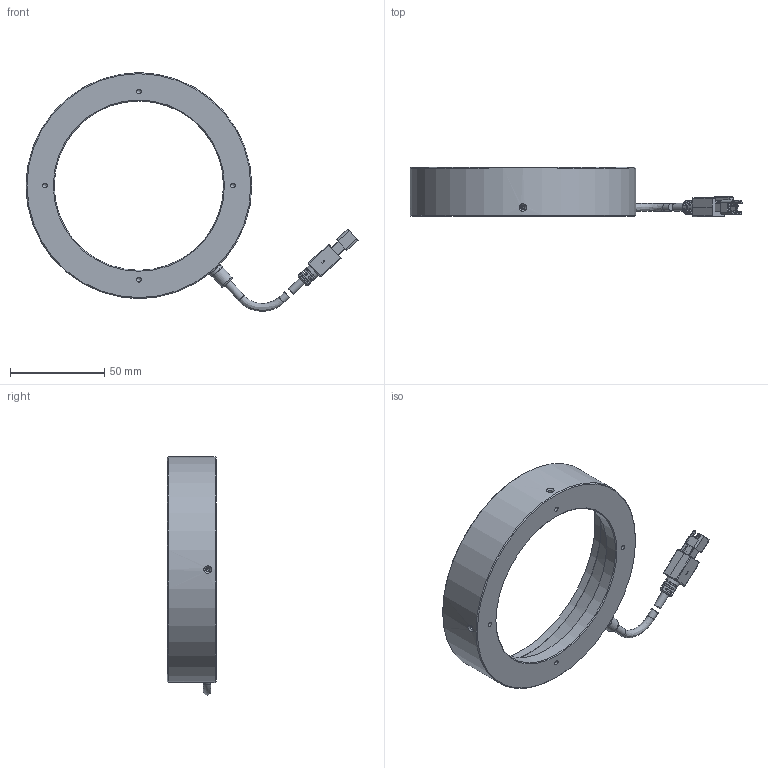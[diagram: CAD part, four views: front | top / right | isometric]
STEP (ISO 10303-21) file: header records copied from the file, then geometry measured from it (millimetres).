
FILE_DESCRIPTION (( 'STEP AP203' ), '1' );
FILE_NAME ('OPT-IRI12080-IR-V1.0.STEP', '2025-02-15T01:38:29', ( '' ), ( '' ), 'SwSTEP 2.0', 'SolidWorks 2016', '' );
FILE_SCHEMA (( 'CONFIG_CONTROL_DESIGN' ));
Length unit declared in the file: millimetre
Products named in the file (1): OPT-IRI12080-IR-V1.0
Bounding box: 176.5 x 26.35 x 126.76 mm (x, y, z)
Volume: 77619.9 mm3; surface area: 42239 mm2
Topology: 8 solids, 9 shells, 369 faces, 951 edges, 602 vertices
Faces by surface type: plane 185, cylinder 120, cone 35, bspline 19, torus 6, sphere 4
Full cylindrical faces by diameter (mm): 1.1 x4, 1.6 x4, 2 x4, 2.2 x4, 2.5 x4, 3.5 x1, 4.1 x4, 5.8 x1, 7.5 x2, 8 x1, 90 x1, 110 x1, 116 x1, 117.943 x1, 118 x1, 120 x1
Entity records: 12146 total; most frequent: CARTESIAN_POINT 3738, DIRECTION 1681, ORIENTED_EDGE 1660, EDGE_CURVE 830, AXIS2_PLACEMENT_3D 585, VERTEX_POINT 562, VECTOR 511, LINE 511
